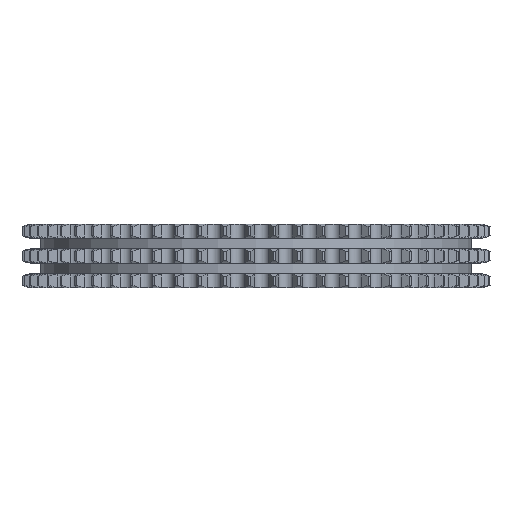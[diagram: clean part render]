
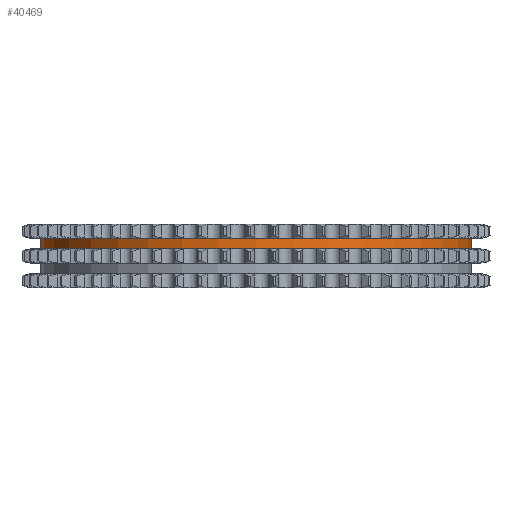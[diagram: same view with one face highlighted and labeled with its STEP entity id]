
A CAD part, left-side view. The second image highlights one B-rep face of the part: STEP entity #40469.
In plain terms, the highlighted cylindrical face has radius 167.967 mm (diameter 335.934 mm), a partial arc.
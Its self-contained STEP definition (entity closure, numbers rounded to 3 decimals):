
#7126=DIRECTION('',(0.,0.,-1.));
#7127=VECTOR('',#7126,8.25);
#7128=CARTESIAN_POINT('',(0.,167.967,13.8));
#7129=LINE('',#7128,#7127);
#7133=CARTESIAN_POINT('',(0.,0.,13.8));
#7134=DIRECTION('',(0.,0.,1.));
#7135=DIRECTION('',(0.,1.,0.));
#7136=AXIS2_PLACEMENT_3D('',#7133,#7134,#7135);
#7141=DIRECTION('',(0.,0.,-1.));
#7142=VECTOR('',#7141,8.25);
#7143=CARTESIAN_POINT('',(0.,-167.967,13.8));
#7144=LINE('',#7143,#7142);
#7148=CARTESIAN_POINT('',(0.,0.,5.55));
#7149=DIRECTION('',(0.,0.,1.));
#7150=DIRECTION('',(0.,1.,0.));
#7151=AXIS2_PLACEMENT_3D('',#7148,#7149,#7150);
#32412=CARTESIAN_POINT('',(0.,167.967,13.8));
#32413=CARTESIAN_POINT('',(0.,167.967,5.55));
#32414=VERTEX_POINT('',#32412);
#32415=VERTEX_POINT('',#32413);
#32416=CARTESIAN_POINT('',(0.,-167.967,13.8));
#32417=CARTESIAN_POINT('',(0.,-167.967,5.55));
#32418=VERTEX_POINT('',#32416);
#32419=VERTEX_POINT('',#32417);
#40457=CARTESIAN_POINT('',(0.,0.,15.18));
#40458=DIRECTION('',(0.,0.,-1.));
#40459=DIRECTION('',(0.,-1.,0.));
#40460=AXIS2_PLACEMENT_3D('',#40457,#40458,#40459);
#40461=CYLINDRICAL_SURFACE('',#40460,167.967);
#40462=ORIENTED_EDGE('',*,*,#40447,.F.);
#40463=ORIENTED_EDGE('',*,*,#40437,.T.);
#40464=ORIENTED_EDGE('',*,*,#40451,.T.);
#40466=ORIENTED_EDGE('',*,*,#40465,.F.);
#40467=EDGE_LOOP('',(#40462,#40463,#40464,#40466));
#40468=FACE_OUTER_BOUND('',#40467,.F.);
#40469=ADVANCED_FACE('',(#40468),#40461,.T.);
#7137=CIRCLE('',#7136,167.967);
#7152=CIRCLE('',#7151,167.967);
#40437=EDGE_CURVE('',#32414,#32418,#7137,.T.);
#40447=EDGE_CURVE('',#32414,#32415,#7129,.T.);
#40451=EDGE_CURVE('',#32418,#32419,#7144,.T.);
#40465=EDGE_CURVE('',#32415,#32419,#7152,.T.);
